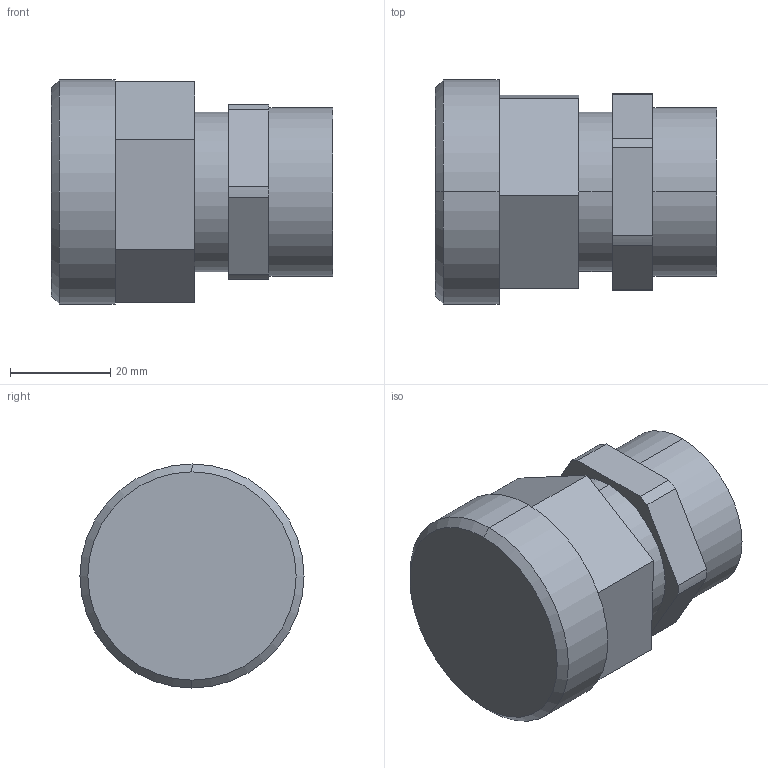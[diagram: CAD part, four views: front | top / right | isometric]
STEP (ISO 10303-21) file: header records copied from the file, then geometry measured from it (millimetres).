
FILE_DESCRIPTION (( 'STEP AP214' ), '1' );
FILE_NAME ('16-weldable-with-top-mount-adapter.STEP', '2012-11-27T21:12:15', ( '' ), ( '' ), 'SwSTEP 2.0', 'SolidWorks 2012', '' );
FILE_SCHEMA (( 'AUTOMOTIVE_DESIGN' ));
Length unit declared in the file: inch
Products named in the file (1): 16-weldable-with-top-mount-adapter
Bounding box: 56.11 x 44.7 x 44.7 mm (x, y, z)
Volume: 57712.7 mm3; surface area: 11443.4 mm2
Topology: 1 solids, 1 shells, 35 faces, 82 edges, 54 vertices
Faces by surface type: plane 19, cylinder 14, cone 2
Entity records: 1089 total; most frequent: DIRECTION 184, CARTESIAN_POINT 172, ORIENTED_EDGE 164, EDGE_CURVE 82, AXIS2_PLACEMENT_3D 66, VERTEX_POINT 54, VECTOR 52, LINE 52
